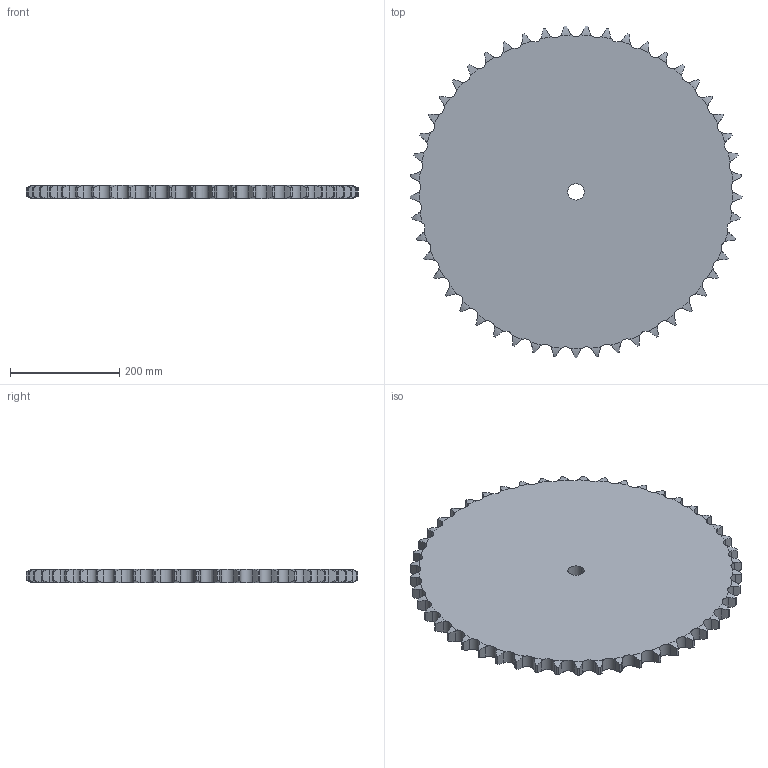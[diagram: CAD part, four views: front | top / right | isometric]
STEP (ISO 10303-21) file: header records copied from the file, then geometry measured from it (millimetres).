
FILE_DESCRIPTION((''),'2;1');
FILE_NAME('500-701-0049_PRT','2021-02-12T',('Brieden'),('Brieden'),'PRO/ENGINEER BY PARAMETRIC TECHNOLOGY CORPORATION, 2010160','PRO/ENGINEER BY PARAMETRIC TECHNOLOGY CORPORATION, 2010160','');
FILE_SCHEMA(('AUTOMOTIVE_DESIGN { 1 0 10303 214 1 1 1 1 }'));
Length unit declared in the file: millimetre
Products named in the file (1): 500-701-0049_PRT
Bounding box: 608.39 x 608.08 x 24.1 mm (x, y, z)
Volume: 6409190.7 mm3; surface area: 600025.9 mm2
Topology: 1 solids, 1 shells, 298 faces, 888 edges, 592 vertices
Faces by surface type: cylinder 198, torus 98, plane 2
Entity records: 15206 total; most frequent: CARTESIAN_POINT 4943, ORIENTED_EDGE 1776, DIRECTION 1390, PRESENTATION_STYLE_ASSIGNMENT 889, STYLED_ITEM 889, CURVE_STYLE 888, EDGE_CURVE 888, AXIS2_PLACEMENT_3D 596
